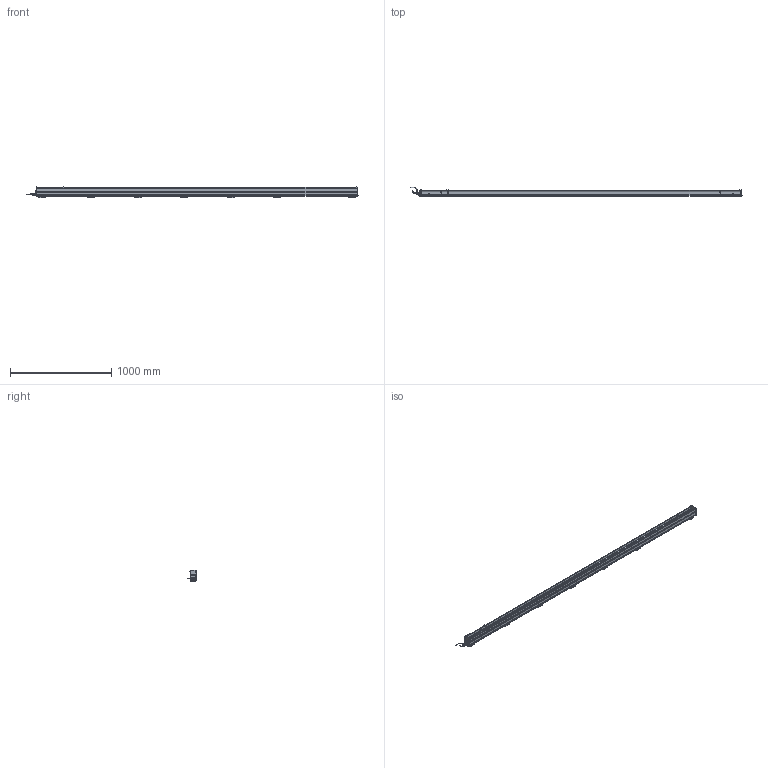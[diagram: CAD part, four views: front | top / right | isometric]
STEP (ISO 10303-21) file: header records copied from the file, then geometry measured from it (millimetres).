
FILE_DESCRIPTION(/* description */ (''),/* implementation_level */ '2;1');
FILE_NAME(/* name */ 'THUNDERION2_3D_3000-3195',/* time_stamp */ '2017-09-28T12:00:35+02:00',/* author */ (''),/* organization */ (''),/* preprocessor_version */ 'ST-DEVELOPER v15.7',/* originating_system */ 'HiCAD 2015 2002.1 Build 408',/* authorisation */ '');
FILE_SCHEMA (('AUTOMOTIVE_DESIGN { 1 0 10303 214 1 1 1 1 }'));
Products named in the file (127): Root; -_ThunderION 3000/3195; -_Side profile; -_Bar; -_Connector straight; EXTRUDED SOLID_0; -_Cord; REVOLVED SOLID_1; REVOLVED SOLID_3; DIN 13-M12x1,5; -_Connector angled; REVOLVED SOLID_2; 4532000100_Mounting bracket bars; -_Side piece; -_Slide piece; -_Bracket small; DIN 13-M3; DIN 76-M3; -_Cable End; light pipe M; light pipe L; -_Cap CE; -_Stud M4; -_Connector M12 male 5 pole_1; -_Contacts; ABSR_1_2_1_1_Inner part; ABSR_1_2_1_2_Inner part; bus; Pg 9; -_Ring tongue terminal; 9230000020_Nut M4; GEWINDE; 9240100020_Spring washer M4; ISO 7051-ST3.5x9.5-C-H_Tapping screws_0; -_Fill; -_Dead end; -_Cap DE; -_Emitter; -_Support Side Profile; -_End Plate
Assembly tree (126 placements, depth 6):
  Root
    -_ThunderION 3000/3195
      -_Side profile
      -_Side profile
      -_Bar
      -_Connector straight
        EXTRUDED SOLID_0
        -_Cord
        REVOLVED SOLID_1
        REVOLVED SOLID_3
          DIN 13-M12x1,5
      -_Connector angled
        REVOLVED SOLID_1
        EXTRUDED SOLID_0
        -_Cord
        REVOLVED SOLID_2
        REVOLVED SOLID_3
          DIN 13-M12x1,5
      4532000100_Mounting bracket bars
        -_Side piece
        -_Side piece
        -_Slide piece
        -_Bracket small
          DIN 13-M3
          DIN 13-M3
          DIN 76-M3
          DIN 76-M3
      4532000100_Mounting bracket bars
        -_Side piece
        -_Side piece
        -_Slide piece
        -_Bracket small
          DIN 13-M3
          DIN 13-M3
          DIN 76-M3
          DIN 76-M3
      4532000100_Mounting bracket bars
        -_Side piece
        -_Side piece
        -_Slide piece
        -_Bracket small
          DIN 13-M3
          DIN 13-M3
          DIN 76-M3
          DIN 76-M3
      4532000100_Mounting bracket bars
        -_Side piece
        -_Side piece
        -_Slide piece
        -_Bracket small
          DIN 13-M3
          DIN 13-M3
          DIN 76-M3
          DIN 76-M3
      4532000100_Mounting bracket bars
        -_Side piece
        -_Side piece
        -_Slide piece
        -_Bracket small
          DIN 13-M3
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Bounding box: 3273.34 x 92.25 x 113 mm (x, y, z)
Volume: 10080559.9 mm3; surface area: 2316070.3 mm2
Topology: 117 solids, 138 shells, 6130 faces, 15659 edges, 9467 vertices
Faces by surface type: plane 2528, cylinder 2462, bspline 344, torus 327, sphere 292, cone 177
Full cylindrical faces by diameter (mm): 0.8 x10, 1 x10, 2.387 x28, 2.5 x1, 2.64 x16, 3 x56, 3.141 x2, 3.5 x8, 4 x26, 4.2 x3, 4.4 x1, 5 x4, 5.5 x35, 7.3 x8, 8 x2, 8.4 x2, 9 x6, 9.6 x1, 10 x2, 10.16 x1, 10.5 x2, 11 x4, 12 x5, 12.8 x1, 13.8 x4, 13.86 x1, 14.5 x3, 15.199 x1, 15.2 x1
Entity records: 361456 total; most frequent: CARTESIAN_POINT 98849, DIRECTION 30329, PRESENTATION_STYLE_ASSIGNMENT 29640, OVER_RIDING_STYLED_ITEM 29527, DRAUGHTING_PRE_DEFINED_CURVE_FONT 29480, CURVE_STYLE 29480, ORIENTED_EDGE 29480, EDGE_CURVE 14740
